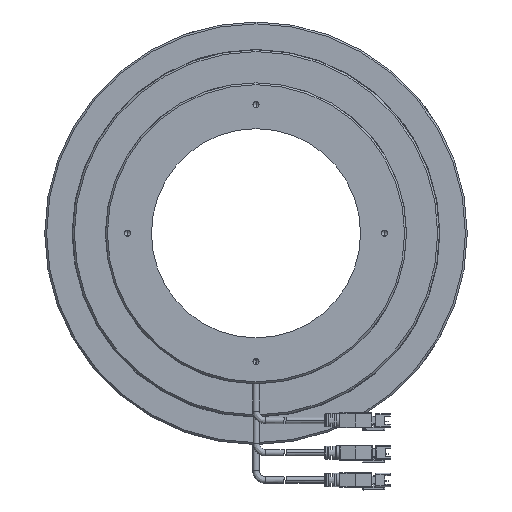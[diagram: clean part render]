
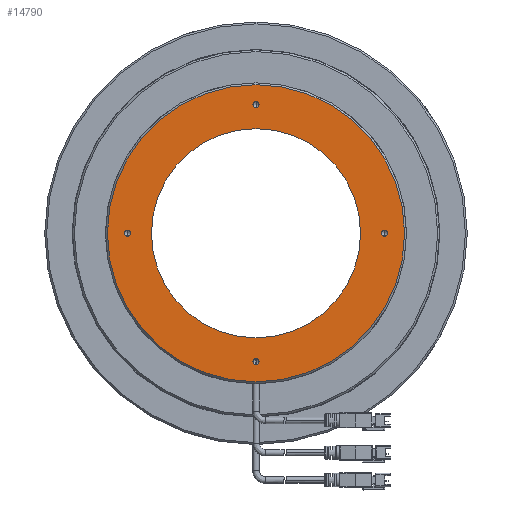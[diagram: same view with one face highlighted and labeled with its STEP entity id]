
A CAD part, left-side view. The second image highlights one B-rep face of the part: STEP entity #14790.
In plain terms, the highlighted planar face has unit normal (-1, 0, 0).
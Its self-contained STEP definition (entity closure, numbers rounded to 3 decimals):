
#314 = AXIS2_PLACEMENT_3D ( 'NONE', #43626, #22695, #29818 ) ;
#355 = DIRECTION ( 'NONE',  ( 0., 0., -1. ) ) ;
#583 = DIRECTION ( 'NONE',  ( 0., 0., -1. ) ) ;
#836 = EDGE_CURVE ( 'NONE', #43498, #16440, #36020, .T. ) ;
#1185 = FACE_BOUND ( 'NONE', #12512, .T. ) ;
#1497 = DIRECTION ( 'NONE',  ( 0., 0., 1. ) ) ;
#1763 = EDGE_CURVE ( 'NONE', #22748, #26952, #14569, .T. ) ;
#2189 = ORIENTED_EDGE ( 'NONE', *, *, #6226, .F. ) ;
#2256 = DIRECTION ( 'NONE',  ( -1., 0., 0. ) ) ;
#2471 = AXIS2_PLACEMENT_3D ( 'NONE', #22873, #5411, #33212 ) ;
#2694 = CARTESIAN_POINT ( 'NONE',  ( 0., 0., -70. ) ) ;
#2833 = CARTESIAN_POINT ( 'NONE',  ( 0., 0., -57. ) ) ;
#3008 = CARTESIAN_POINT ( 'NONE',  ( 0., 0., 81. ) ) ;
#3214 = CIRCLE ( 'NONE', #12531, 1.65 ) ;
#3785 = CARTESIAN_POINT ( 'NONE',  ( 0., 0., -68.35 ) ) ;
#4046 = DIRECTION ( 'NONE',  ( 1., 0., 0. ) ) ;
#4461 = FACE_BOUND ( 'NONE', #20529, .T. ) ;
#4490 = CIRCLE ( 'NONE', #43380, 57. ) ;
#4996 = DIRECTION ( 'NONE',  ( -1., 0., 0. ) ) ;
#5104 = ORIENTED_EDGE ( 'NONE', *, *, #34518, .F. ) ;
#5142 = EDGE_LOOP ( 'NONE', ( #37002, #2189 ) ) ;
#5411 = DIRECTION ( 'NONE',  ( -1., 0., 0. ) ) ;
#5548 = VERTEX_POINT ( 'NONE', #21778 ) ;
#6226 = EDGE_CURVE ( 'NONE', #16133, #12350, #20794, .T. ) ;
#6786 = CARTESIAN_POINT ( 'NONE',  ( 0., 0., 70. ) ) ;
#7066 = AXIS2_PLACEMENT_3D ( 'NONE', #35006, #38358, #31303 ) ;
#7117 = VERTEX_POINT ( 'NONE', #3008 ) ;
#7169 = FACE_BOUND ( 'NONE', #28994, .T. ) ;
#7201 = DIRECTION ( 'NONE',  ( 1., 0., 0. ) ) ;
#8599 = PLANE ( 'NONE',  #314 ) ;
#8820 = FACE_BOUND ( 'NONE', #43782, .T. ) ;
#9603 = CARTESIAN_POINT ( 'NONE',  ( 0., -70., 0. ) ) ;
#10087 = EDGE_CURVE ( 'NONE', #16440, #43498, #4490, .T. ) ;
#10364 = EDGE_CURVE ( 'NONE', #19759, #19640, #43317, .T. ) ;
#11194 = DIRECTION ( 'NONE',  ( 0., 0., 1. ) ) ;
#11304 = VERTEX_POINT ( 'NONE', #30654 ) ;
#12084 = CIRCLE ( 'NONE', #27119, 1.65 ) ;
#12350 = VERTEX_POINT ( 'NONE', #36474 ) ;
#12512 = EDGE_LOOP ( 'NONE', ( #32320, #30230 ) ) ;
#12531 = AXIS2_PLACEMENT_3D ( 'NONE', #6786, #45387, #31193 ) ;
#13228 = AXIS2_PLACEMENT_3D ( 'NONE', #19658, #26341, #22861 ) ;
#13832 = CARTESIAN_POINT ( 'NONE',  ( 0., 70., -1.65 ) ) ;
#13880 = CIRCLE ( 'NONE', #24982, 1.65 ) ;
#14569 = CIRCLE ( 'NONE', #19168, 1.65 ) ;
#14790 = ADVANCED_FACE ( 'NONE', ( #4461, #7169, #44416, #1185, #8820, #37814 ), #8599, .T. ) ;
#15736 = CIRCLE ( 'NONE', #39005, 1.65 ) ;
#16133 = VERTEX_POINT ( 'NONE', #33675 ) ;
#16281 = CIRCLE ( 'NONE', #41311, 1.65 ) ;
#16440 = VERTEX_POINT ( 'NONE', #21789 ) ;
#16447 = EDGE_CURVE ( 'NONE', #19640, #19759, #15736, .T. ) ;
#16962 = DIRECTION ( 'NONE',  ( 0., 0., 1. ) ) ;
#17960 = CARTESIAN_POINT ( 'NONE',  ( 0., 0., 0. ) ) ;
#18194 = ORIENTED_EDGE ( 'NONE', *, *, #10364, .F. ) ;
#19168 = AXIS2_PLACEMENT_3D ( 'NONE', #26101, #4996, #1497 ) ;
#19593 = VERTEX_POINT ( 'NONE', #40575 ) ;
#19640 = VERTEX_POINT ( 'NONE', #34148 ) ;
#19658 = CARTESIAN_POINT ( 'NONE',  ( 0., 0., 0. ) ) ;
#19759 = VERTEX_POINT ( 'NONE', #13832 ) ;
#20529 = EDGE_LOOP ( 'NONE', ( #5104, #38454 ) ) ;
#20650 = ORIENTED_EDGE ( 'NONE', *, *, #30594, .F. ) ;
#20794 = CIRCLE ( 'NONE', #2471, 1.65 ) ;
#21445 = DIRECTION ( 'NONE',  ( 0., 0., -1. ) ) ;
#21778 = CARTESIAN_POINT ( 'NONE',  ( 0., 0., -81. ) ) ;
#21789 = CARTESIAN_POINT ( 'NONE',  ( 0., 0., 57. ) ) ;
#22695 = DIRECTION ( 'NONE',  ( -1., 0., 0. ) ) ;
#22748 = VERTEX_POINT ( 'NONE', #24928 ) ;
#22861 = DIRECTION ( 'NONE',  ( 0., 0., -1. ) ) ;
#22873 = CARTESIAN_POINT ( 'NONE',  ( 0., 0., 70. ) ) ;
#24645 = EDGE_CURVE ( 'NONE', #12350, #16133, #3214, .T. ) ;
#24928 = CARTESIAN_POINT ( 'NONE',  ( 0., 0., -71.65 ) ) ;
#24982 = AXIS2_PLACEMENT_3D ( 'NONE', #9603, #33920, #30390 ) ;
#25985 = ORIENTED_EDGE ( 'NONE', *, *, #16447, .F. ) ;
#26101 = CARTESIAN_POINT ( 'NONE',  ( 0., 0., -70. ) ) ;
#26341 = DIRECTION ( 'NONE',  ( 1., 0., 0. ) ) ;
#26952 = VERTEX_POINT ( 'NONE', #3785 ) ;
#27048 = CIRCLE ( 'NONE', #36035, 81. ) ;
#27119 = AXIS2_PLACEMENT_3D ( 'NONE', #2694, #30909, #16962 ) ;
#28114 = CARTESIAN_POINT ( 'NONE',  ( 0., 0., 0. ) ) ;
#28994 = EDGE_LOOP ( 'NONE', ( #25985, #18194 ) ) ;
#29818 = DIRECTION ( 'NONE',  ( 0., 0., 1. ) ) ;
#30034 = DIRECTION ( 'NONE',  ( 0., 0., 1. ) ) ;
#30230 = ORIENTED_EDGE ( 'NONE', *, *, #42158, .F. ) ;
#30390 = DIRECTION ( 'NONE',  ( 0., 0., 1. ) ) ;
#30594 = EDGE_CURVE ( 'NONE', #5548, #7117, #43412, .T. ) ;
#30654 = CARTESIAN_POINT ( 'NONE',  ( 0., -70., -1.65 ) ) ;
#30909 = DIRECTION ( 'NONE',  ( -1., 0., 0. ) ) ;
#31193 = DIRECTION ( 'NONE',  ( 0., 0., 1. ) ) ;
#31303 = DIRECTION ( 'NONE',  ( 0., 0., 1. ) ) ;
#31604 = DIRECTION ( 'NONE',  ( 1., 0., 0. ) ) ;
#32097 = CARTESIAN_POINT ( 'NONE',  ( 0., 70., 0. ) ) ;
#32320 = ORIENTED_EDGE ( 'NONE', *, *, #41371, .F. ) ;
#33212 = DIRECTION ( 'NONE',  ( 0., 0., 1. ) ) ;
#33675 = CARTESIAN_POINT ( 'NONE',  ( 0., 0., 68.35 ) ) ;
#33711 = CARTESIAN_POINT ( 'NONE',  ( 0., -70., 0. ) ) ;
#33920 = DIRECTION ( 'NONE',  ( -1., 0., 0. ) ) ;
#34148 = CARTESIAN_POINT ( 'NONE',  ( 0., 70., 1.65 ) ) ;
#34239 = AXIS2_PLACEMENT_3D ( 'NONE', #42417, #4046, #583 ) ;
#34518 = EDGE_CURVE ( 'NONE', #26952, #22748, #12084, .T. ) ;
#35006 = CARTESIAN_POINT ( 'NONE',  ( 0., 70., 0. ) ) ;
#36020 = CIRCLE ( 'NONE', #13228, 57. ) ;
#36035 = AXIS2_PLACEMENT_3D ( 'NONE', #17960, #31604, #21445 ) ;
#36472 = EDGE_CURVE ( 'NONE', #7117, #5548, #27048, .T. ) ;
#36474 = CARTESIAN_POINT ( 'NONE',  ( 0., 0., 71.65 ) ) ;
#37002 = ORIENTED_EDGE ( 'NONE', *, *, #24645, .F. ) ;
#37814 = FACE_OUTER_BOUND ( 'NONE', #44109, .T. ) ;
#38358 = DIRECTION ( 'NONE',  ( -1., 0., 0. ) ) ;
#38454 = ORIENTED_EDGE ( 'NONE', *, *, #1763, .F. ) ;
#38482 = ORIENTED_EDGE ( 'NONE', *, *, #836, .T. ) ;
#39005 = AXIS2_PLACEMENT_3D ( 'NONE', #32097, #39308, #11194 ) ;
#39308 = DIRECTION ( 'NONE',  ( -1., 0., 0. ) ) ;
#39756 = ORIENTED_EDGE ( 'NONE', *, *, #36472, .F. ) ;
#40575 = CARTESIAN_POINT ( 'NONE',  ( 0., -70., 1.65 ) ) ;
#41311 = AXIS2_PLACEMENT_3D ( 'NONE', #33711, #2256, #30034 ) ;
#41371 = EDGE_CURVE ( 'NONE', #19593, #11304, #16281, .T. ) ;
#42158 = EDGE_CURVE ( 'NONE', #11304, #19593, #13880, .T. ) ;
#42417 = CARTESIAN_POINT ( 'NONE',  ( 0., 0., 0. ) ) ;
#43098 = ORIENTED_EDGE ( 'NONE', *, *, #10087, .T. ) ;
#43317 = CIRCLE ( 'NONE', #7066, 1.65 ) ;
#43380 = AXIS2_PLACEMENT_3D ( 'NONE', #28114, #7201, #355 ) ;
#43412 = CIRCLE ( 'NONE', #34239, 81. ) ;
#43498 = VERTEX_POINT ( 'NONE', #2833 ) ;
#43626 = CARTESIAN_POINT ( 'NONE',  ( 0., 0., 0. ) ) ;
#43782 = EDGE_LOOP ( 'NONE', ( #38482, #43098 ) ) ;
#44109 = EDGE_LOOP ( 'NONE', ( #20650, #39756 ) ) ;
#44416 = FACE_BOUND ( 'NONE', #5142, .T. ) ;
#45387 = DIRECTION ( 'NONE',  ( -1., 0., 0. ) ) ;
